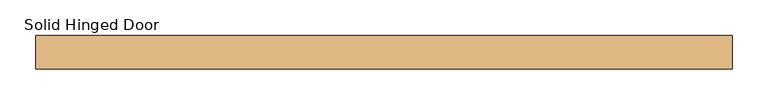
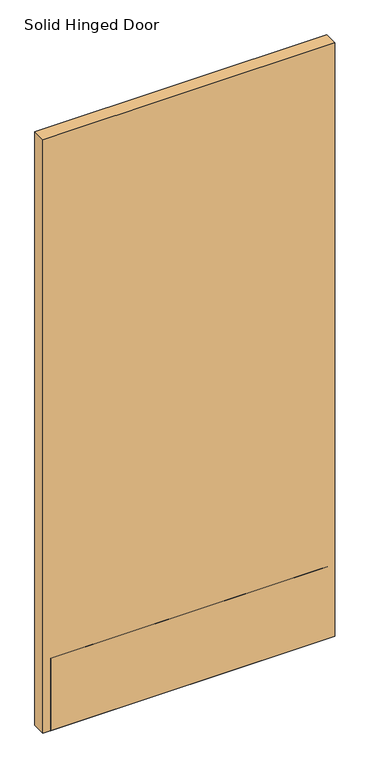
"""IFC4 building model written with IfcOpenShell, lengths in millimetres: door geometry, Solid_Hinged_Door-Teknion-FHDA-Leaf_Single-R2022 : Solid Hinged Door."""

from ifc_helpers import new_model, si_unit, frame, origin, place, context, project, spatial, polyline, outline, extrude, faceted_brep, source, transform, mapped, element, save


def solid_hinged_door_b52ce63d(model_context):
    return source(origin(), model_context, "Body", "SolidModel", [
        faceted_brep([(484.1064326, -23.114, 12.7), (-484.1064326, -23.114, 12.7), (-484.1064326, 23.114, 12.7), (484.1064326, 23.114, 12.7), (484.1064326, 7.1501, 12.7), (-477.7564326, 7.1501, 12.7), (-477.7564326, -7.1501, 12.7), (484.1064326, -7.1501, 12.7), (484.1064326, 23.114, 2093.9635027), (484.1064326, -23.114, 2093.9635027), (484.1064326, -7.1501, 50.8), (484.1064326, 7.1501, 50.8), (-484.1064326, -23.114, 2093.9635027), (-484.1064326, 23.114, 2093.9635027), (-477.7564326, 7.1501, 50.8), (-477.7564326, -7.1501, 50.8)], [[[0, 1, 2, 3, 4, 5, 6, 7]], [[8, 9, 0, 7, 10, 11, 4, 3]], [[9, 12, 1, 0]], [[12, 13, 2, 1]], [[13, 8, 3, 2]], [[8, 13, 12, 9]], [[11, 14, 5, 4]], [[14, 15, 6, 5]], [[15, 10, 7, 6]], [[15, 14, 11, 10]]]),
        extrude(outline(polyline([(458.7064326, -9.8925062), (458.7064326, -11.4927062), (-458.7064326, -11.4927062), (-458.7064326, -9.8925062), (458.7064326, -9.8925062)])), frame((0.0, 0.0, 12.7), z_axis=(0.0, 0.0, 1.0), x_axis=(1.0, 0.0, 0.0)), (0.0, 0.0, 1.0), 254.0),
        extrude(outline(polyline([(458.7064326, -21.5138), (458.7064326, -23.114), (-458.7064326, -23.114), (-458.7064326, -21.5138), (458.7064326, -21.5138)])), frame((0.0, 0.0, 12.7), z_axis=(0.0, 0.0, 1.0), x_axis=(1.0, 0.0, 0.0)), (0.0, 0.0, 1.0), 254.0),
    ])


if __name__ == "__main__":
    model = new_model("IFC4")
    model_context = context("Model", 3, world=origin())
    ifc_project = project(units=[si_unit("LENGTHUNIT", "METRE", prefix="MILLI")], contexts=[model_context])
    site = spatial("IfcSite", under=ifc_project)
    building = spatial("IfcBuilding", under=site)
    placement = place(None, origin())
    solid_hinged_door_shape = solid_hinged_door_b52ce63d(model_context)
    element("IfcDoor", 1, ObjectType="Solid_Hinged_Door-Teknion-FHDA-Leaf_Single-R2022 : Solid Hinged Door", at=placement, inside=building, context=model_context, shape_type="MappedRepresentation", body=[
        mapped(solid_hinged_door_shape, transform((0.0, 0.0, 0.0), x_axis=(1.0, 0.0, 0.0), y_axis=(0.0, 1.0, 0.0), z_axis=(0.0, 0.0, 1.0))),
    ])
    save(model, "model.ifc")
